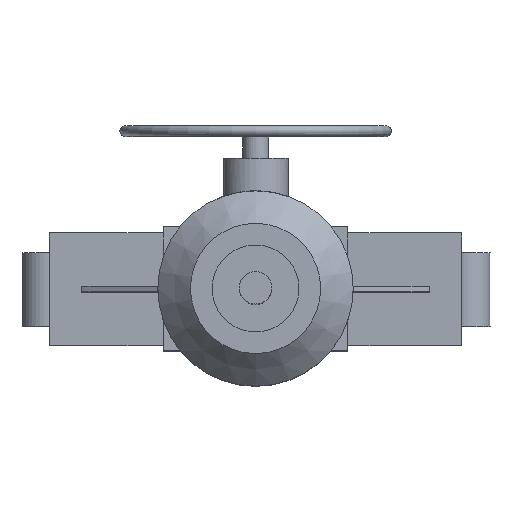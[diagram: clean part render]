
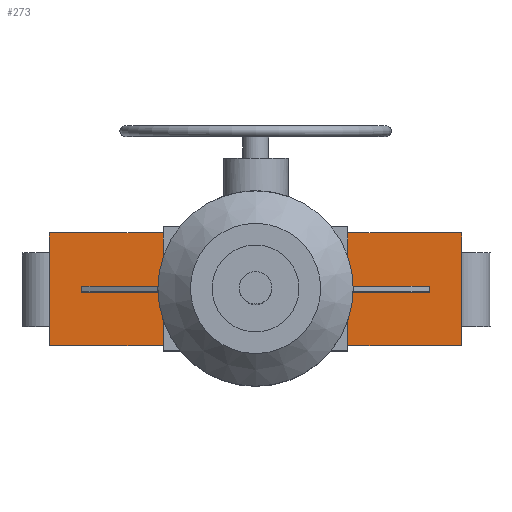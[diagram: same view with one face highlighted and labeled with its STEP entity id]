
A CAD part, top view. The second image highlights one B-rep face of the part: STEP entity #273.
In plain terms, the highlighted planar face has unit normal (0, 0, 1).
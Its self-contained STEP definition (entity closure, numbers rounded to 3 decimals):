
#273=ADVANCED_FACE('',(#1648,#1650),#1652,.T.);
#1648=FACE_BOUND('',#1649,.T.);
#1649=EDGE_LOOP('',(#2808,#2809,#2810,#2811,#2812,#2813,#2814,#2815));
#1650=FACE_BOUND('',#1651,.T.);
#1651=EDGE_LOOP('',(#2816,#2817,#2818,#2819));
#1652=PLANE('',#1653);
#1653=AXIS2_PLACEMENT_3D('',#1654,#1655,#1656);
#1654=CARTESIAN_POINT('',(0.,0.,300.));
#1655=DIRECTION('',(0.,0.,1.));
#1656=DIRECTION('',(1.,0.,0.));
#2808=ORIENTED_EDGE('',*,*,#3475,.F.);
#2809=ORIENTED_EDGE('',*,*,#3480,.T.);
#2810=ORIENTED_EDGE('',*,*,#3483,.T.);
#2811=ORIENTED_EDGE('',*,*,#3463,.T.);
#2812=ORIENTED_EDGE('',*,*,#3469,.F.);
#2813=ORIENTED_EDGE('',*,*,#3467,.T.);
#2814=ORIENTED_EDGE('',*,*,#3484,.T.);
#2815=ORIENTED_EDGE('',*,*,#3476,.T.);
#2816=ORIENTED_EDGE('',*,*,#3485,.F.);
#2817=ORIENTED_EDGE('',*,*,#3486,.F.);
#2818=ORIENTED_EDGE('',*,*,#3487,.F.);
#2819=ORIENTED_EDGE('',*,*,#3488,.F.);
#3463=EDGE_CURVE('',#3858,#3841,#3859,.T.);
#3467=EDGE_CURVE('',#3821,#3864,#3866,.T.);
#3469=EDGE_CURVE('',#3821,#3841,#3868,.T.);
#3475=EDGE_CURVE('',#3835,#3827,#3878,.T.);
#3476=EDGE_CURVE('',#3879,#3827,#3880,.T.);
#3480=EDGE_CURVE('',#3835,#3885,#3887,.T.);
#3483=EDGE_CURVE('',#3885,#3858,#3892,.T.);
#3484=EDGE_CURVE('',#3864,#3879,#3893,.T.);
#3485=EDGE_CURVE('',#3894,#3895,#3896,.T.);
#3486=EDGE_CURVE('',#3897,#3894,#3898,.F.);
#3487=EDGE_CURVE('',#3899,#3897,#3900,.T.);
#3488=EDGE_CURVE('',#3895,#3899,#3901,.T.);
#3821=VERTEX_POINT('',#4490);
#3827=VERTEX_POINT('',#4502);
#3835=VERTEX_POINT('',#4520);
#3841=VERTEX_POINT('',#4532);
#3858=VERTEX_POINT('',#4580);
#3859=LINE('',#4581,#4582);
#3864=VERTEX_POINT('',#4592);
#3866=LINE('',#4596,#4597);
#3868=LINE('',#4602,#4603);
#3878=LINE('',#4624,#4625);
#3879=VERTEX_POINT('',#4627);
#3880=LINE('',#4628,#4629);
#3885=VERTEX_POINT('',#4639);
#3887=LINE('',#4643,#4644);
#3892=LINE('',#4656,#4657);
#3893=LINE('',#4659,#4660);
#3894=VERTEX_POINT('',#4662);
#3895=VERTEX_POINT('',#4663);
#3896=LINE('',#4664,#4665);
#3897=VERTEX_POINT('',#4667);
#3898=LINE('',#4668,#4669);
#3899=VERTEX_POINT('',#4671);
#3900=LINE('',#4672,#4673);
#3901=LINE('',#4675,#4676);
#4490=CARTESIAN_POINT('',(-85.,52.,300.));
#4502=CARTESIAN_POINT('',(-85.,-52.,300.));
#4520=CARTESIAN_POINT('',(85.,-52.,300.));
#4532=CARTESIAN_POINT('',(85.,52.,300.));
#4580=CARTESIAN_POINT('',(190.,52.,300.));
#4581=CARTESIAN_POINT('',(190.,52.,300.));
#4582=VECTOR('',#4583,1.);
#4583=DIRECTION('',(-1.,0.,0.));
#4592=CARTESIAN_POINT('',(-190.,52.,300.));
#4596=CARTESIAN_POINT('',(-85.,52.,300.));
#4597=VECTOR('',#4598,1.);
#4598=DIRECTION('',(-1.,0.,0.));
#4602=CARTESIAN_POINT('',(-85.,52.,300.));
#4603=VECTOR('',#4604,1.);
#4604=DIRECTION('',(1.,0.,0.));
#4624=CARTESIAN_POINT('',(85.,-52.,300.));
#4625=VECTOR('',#4626,1.);
#4626=DIRECTION('',(-1.,0.,0.));
#4627=CARTESIAN_POINT('',(-190.,-52.,300.));
#4628=CARTESIAN_POINT('',(-190.,-52.,300.));
#4629=VECTOR('',#4630,1.);
#4630=DIRECTION('',(1.,0.,0.));
#4639=CARTESIAN_POINT('',(190.,-52.,300.));
#4643=CARTESIAN_POINT('',(85.,-52.,300.));
#4644=VECTOR('',#4645,1.);
#4645=DIRECTION('',(1.,0.,0.));
#4656=CARTESIAN_POINT('',(190.,-52.,300.));
#4657=VECTOR('',#4658,1.);
#4658=DIRECTION('',(0.,1.,0.));
#4659=CARTESIAN_POINT('',(-190.,52.,300.));
#4660=VECTOR('',#4661,1.);
#4661=DIRECTION('',(0.,-1.,0.));
#4662=CARTESIAN_POINT('',(-160.,2.5,300.));
#4663=CARTESIAN_POINT('',(-160.,-2.5,300.));
#4664=CARTESIAN_POINT('',(-160.,2.5,300.));
#4665=VECTOR('',#4666,1.);
#4666=DIRECTION('',(0.,-1.,0.));
#4667=CARTESIAN_POINT('',(160.,2.5,300.));
#4668=CARTESIAN_POINT('',(-160.,2.5,300.));
#4669=VECTOR('',#4670,1.);
#4670=DIRECTION('',(1.,0.,0.));
#4671=CARTESIAN_POINT('',(160.,-2.5,300.));
#4672=CARTESIAN_POINT('',(160.,-2.5,300.));
#4673=VECTOR('',#4674,1.);
#4674=DIRECTION('',(0.,1.,0.));
#4675=CARTESIAN_POINT('',(-160.,-2.5,300.));
#4676=VECTOR('',#4677,1.);
#4677=DIRECTION('',(1.,0.,0.));
